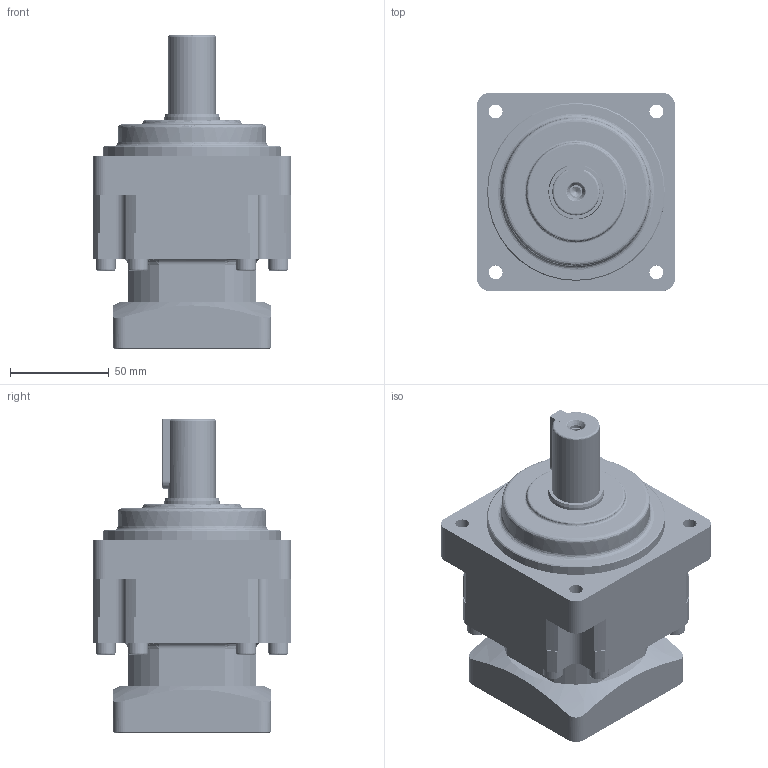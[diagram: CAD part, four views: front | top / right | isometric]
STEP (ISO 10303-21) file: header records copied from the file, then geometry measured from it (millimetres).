
FILE_DESCRIPTION (( 'STEP AP214' ), '1' );
FILE_NAME ('VRSF100-L1-S2-P2 19-70-90-M6.STEP', '2022-02-14T05:18:52', ( 'Admin' ), ( '' ), 'SwSTEP 2.0', 'SolidWorks 2018', '' );
FILE_SCHEMA (( 'AUTOMOTIVE_DESIGN' ));
Length unit declared in the file: millimetre
Products named in the file (12): VRSF100-L1-S2-P2 19-70-90-M6; M6-20; M6-25; VRSF100-626-003_2; VRSF100-604; C8X7X35; M5-20; VRSF100-604_2; VRSF100-609-19; VRSF100-609-19_2; VRSF100-626-003; VRSF100-004
Assembly tree (21 placements, depth 2):
  VRSF100-L1-S2-P2 19-70-90-M6
    VRSF100-604
    VRSF100-604_2
    VRSF100-004
    VRSF100-626-003_2
    VRSF100-626-003
    VRSF100-609-19
    VRSF100-609-19_2
    M6-20
    M5-20  x4
    M6-25  x8
    C8X7X35
Bounding box: 100 x 100 x 158.5 mm (x, y, z)
Volume: 750264.1 mm3; surface area: 124397.6 mm2
Topology: 18 solids, 28 shells, 3551 faces, 7813 edges, 4312 vertices
Faces by surface type: cone 2056, cylinder 1164, plane 292, bspline 39
Entity records: 31561 total; most frequent: CARTESIAN_POINT 7049, DIRECTION 5560, ORIENTED_EDGE 4708, EDGE_CURVE 2375, AXIS2_PLACEMENT_3D 2227, VERTEX_POINT 1381, CIRCLE 1180, EDGE_LOOP 1112
